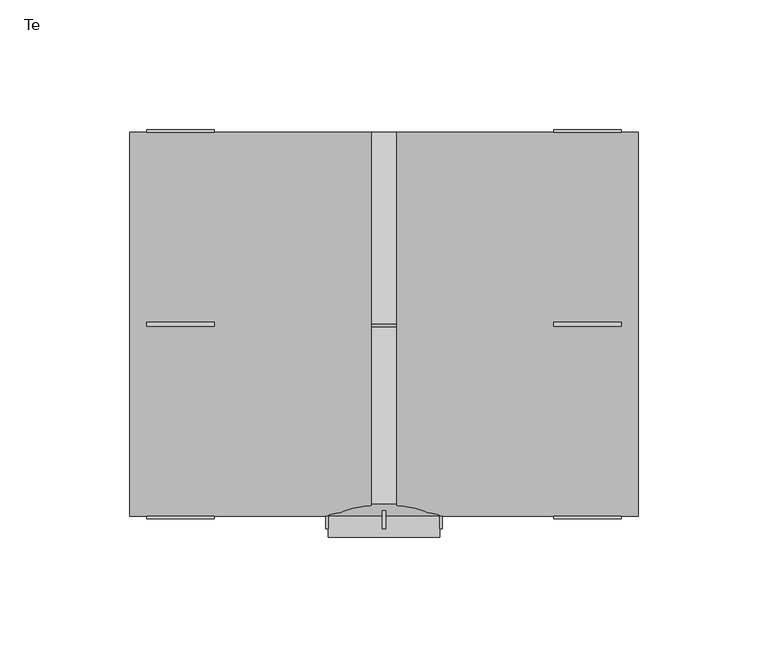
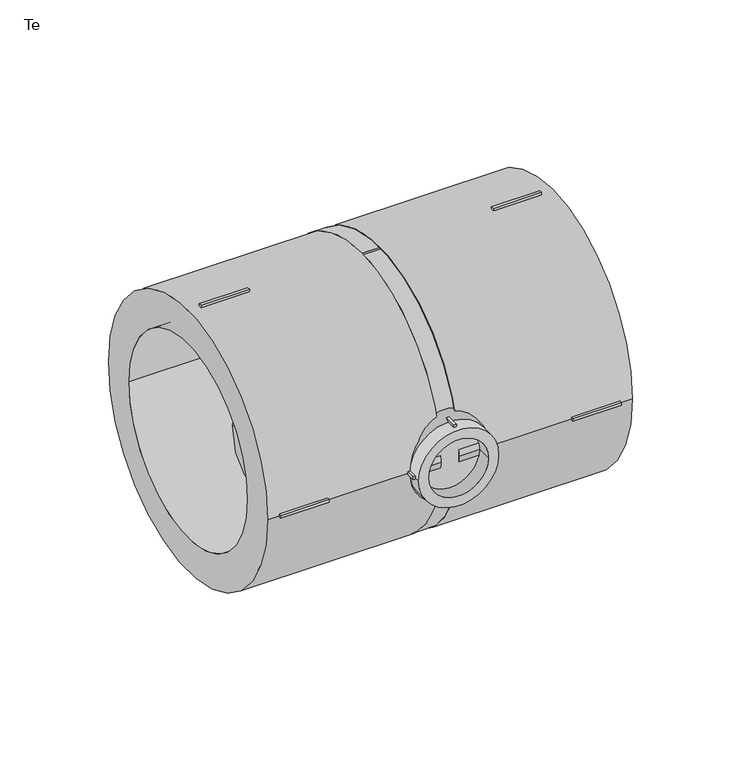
"""IFC4 building model written with IfcOpenShell, lengths in millimetres: pipe fitting geometry, EGB_VASEN_ PPR_Te WXR300_Te reducida WXR310 : Te."""

from ifc_helpers import new_model, si_unit, point, frame, origin, origin_2d, place, context, project, spatial, polyline, circle_curve, trimmed, segment, composite_curve, outline, extrude, source, transform, mapped, element, save
from ifc_brep_helpers import plane_surface, revolved_surface, advanced_brep


def te_11e1364c(model_context):
    return source(origin(), model_context, "Body", "SolidModel", [
        extrude(outline(polyline([(-0.75, -65.5), (0.75, -65.5), (0.75, -78.7), (-0.75, -78.7), (-0.75, -65.5)])), frame((0.0, 0.0, 20.5), z_axis=(0.0, 0.0, 1.0), x_axis=(1.0, 0.0, 0.0)), (0.0, 0.0, 1.0), 2.0),
        extrude(outline(polyline([(-0.75, -65.5), (0.75, -65.5), (0.75, -78.7), (-0.75, -78.7), (-0.75, -65.5)])), frame((0.0, 0.0, -22.5), z_axis=(0.0, 0.0, 1.0), x_axis=(1.0, 0.0, 0.0)), (0.0, 0.0, 1.0), 2.0),
        extrude(outline(polyline([(20.5, -65.5), (22.5, -65.5), (22.5, -78.7), (20.5, -78.7), (20.5, -65.5)])), frame((0.0, 0.0, -0.75), z_axis=(0.0, 0.0, 1.0), x_axis=(1.0, 0.0, 0.0)), (0.0, 0.0, 1.0), 1.5),
        extrude(outline(polyline([(-22.5, -65.5), (-20.5, -65.5), (-20.5, -78.7), (-22.5, -78.7), (-22.5, -65.5)])), frame((0.0, 0.0, -0.75), z_axis=(0.0, 0.0, 1.0), x_axis=(1.0, 0.0, 0.0)), (0.0, 0.0, 1.0), 1.5),
        extrude(outline(polyline([(65.5, -0.75), (65.5, 0.75), (91.5, 0.75), (91.5, -0.75), (65.5, -0.75)])), frame((0.0, 0.0, 73.0), z_axis=(0.0, 0.0, 1.0), x_axis=(1.0, 0.0, 0.0)), (0.0, 0.0, 1.0), 2.0),
        extrude(outline(polyline([(65.5, -0.75), (65.5, 0.75), (91.5, 0.75), (91.5, -0.75), (65.5, -0.75)])), frame((0.0, 0.0, -75.0), z_axis=(0.0, 0.0, 1.0), x_axis=(1.0, 0.0, 0.0)), (0.0, 0.0, 1.0), 2.0),
        extrude(outline(polyline([(65.5, 73.0), (65.5, 75.0), (91.5, 75.0), (91.5, 73.0), (65.5, 73.0)])), frame((0.0, 0.0, -0.75), z_axis=(0.0, 0.0, 1.0), x_axis=(1.0, 0.0, 0.0)), (0.0, 0.0, 1.0), 1.5),
        extrude(outline(polyline([(65.5, -75.0), (65.5, -73.0), (91.5, -73.0), (91.5, -75.0), (65.5, -75.0)])), frame((0.0, 0.0, -0.75), z_axis=(0.0, 0.0, 1.0), x_axis=(1.0, 0.0, 0.0)), (0.0, 0.0, 1.0), 1.5),
        extrude(outline(polyline([(-65.5, 0.75), (-65.5, -0.75), (-91.5, -0.75), (-91.5, 0.75), (-65.5, 0.75)])), frame((0.0, 0.0, 73.0), z_axis=(0.0, 0.0, 1.0), x_axis=(1.0, 0.0, 0.0)), (0.0, 0.0, 1.0), 2.0),
        extrude(outline(polyline([(-65.5, 0.75), (-65.5, -0.75), (-91.5, -0.75), (-91.5, 0.75), (-65.5, 0.75)])), frame((0.0, 0.0, -75.0), z_axis=(0.0, 0.0, 1.0), x_axis=(1.0, 0.0, 0.0)), (0.0, 0.0, 1.0), 2.0),
        extrude(outline(polyline([(-65.5, 75.0), (-65.5, 73.0), (-91.5, 73.0), (-91.5, 75.0), (-65.5, 75.0)])), frame((0.0, 0.0, -0.75), z_axis=(0.0, 0.0, 1.0), x_axis=(1.0, 0.0, 0.0)), (0.0, 0.0, 1.0), 1.5),
        extrude(outline(polyline([(-65.5, -73.0), (-65.5, -75.0), (-91.5, -75.0), (-91.5, -73.0), (-65.5, -73.0)])), frame((0.0, 0.0, -0.75), z_axis=(0.0, 0.0, 1.0), x_axis=(1.0, 0.0, 0.0)), (0.0, 0.0, 1.0), 1.5),
        extrude(outline(composite_curve([segment(trimmed(circle_curve(origin_2d(), 21.5), [point((0.0, 21.5))], [point((0.0, -21.5))], False, "CARTESIAN"), True, "CONTINUOUS"), segment(trimmed(circle_curve(origin_2d(), 21.5), [point((0.0, -21.5))], [point((0.0, 21.5))], False, "CARTESIAN"), True, "CONTINUOUS")], self_intersect=False), holes=[composite_curve([segment(trimmed(circle_curve(origin_2d(), 16.0), [point((0.0, 16.0))], [point((0.0, -16.0))], True, "CARTESIAN"), True, "CONTINUOUS"), segment(trimmed(circle_curve(origin_2d(), 16.0), [point((0.0, -16.0))], [point((0.0, 16.0))], True, "CARTESIAN"), True, "CONTINUOUS")], self_intersect=False)]), frame((0.0, -82.0, 0.0), z_axis=(0.0, 1.0, 0.0), x_axis=(0.0, 0.0, 1.0)), (0.0, 0.0, 1.0), 8.0),
        extrude(outline(composite_curve([segment(trimmed(circle_curve(origin_2d(), 74.0), [point((-74.0, 0.0))], [point((74.0, 0.0))], False, "CARTESIAN"), True, "CONTINUOUS"), segment(trimmed(circle_curve(origin_2d(), 74.0), [point((74.0, 0.0))], [point((-74.0, 0.0))], False, "CARTESIAN"), True, "CONTINUOUS")], self_intersect=False), holes=[composite_curve([segment(trimmed(circle_curve(origin_2d(), 55.0), [point((-55.0, 0.0))], [point((55.0, 0.0))], True, "CARTESIAN"), True, "CONTINUOUS"), segment(trimmed(circle_curve(origin_2d(), 55.0), [point((55.0, 0.0))], [point((-55.0, 0.0))], True, "CARTESIAN"), True, "CONTINUOUS")], self_intersect=False)]), frame((4.84, 0.0, 0.0), z_axis=(1.0, 0.0, 0.0), x_axis=(0.0, 1.0, 0.0)), (0.0, 0.0, 1.0), 93.16),
        extrude(outline(composite_curve([segment(trimmed(circle_curve(origin_2d(), 74.0), [point((-74.0, 0.0))], [point((74.0, 0.0))], False, "CARTESIAN"), True, "CONTINUOUS"), segment(trimmed(circle_curve(origin_2d(), 74.0), [point((74.0, 0.0))], [point((-74.0, 0.0))], False, "CARTESIAN"), True, "CONTINUOUS")], self_intersect=False), holes=[composite_curve([segment(trimmed(circle_curve(origin_2d(), 55.0), [point((-55.0, 0.0))], [point((55.0, 0.0))], True, "CARTESIAN"), True, "CONTINUOUS"), segment(trimmed(circle_curve(origin_2d(), 55.0), [point((55.0, 0.0))], [point((-55.0, 0.0))], True, "CARTESIAN"), True, "CONTINUOUS")], self_intersect=False)]), frame((-98.0, 0.0, 0.0), z_axis=(1.0, 0.0, 0.0), x_axis=(0.0, 1.0, 0.0)), (0.0, 0.0, 1.0), 93.16),
        advanced_brep(
        [(74.0, 0.0, 0.0), (-74.0, 0.0, 0.0), (21.5, -74.0, 0.0), (-21.5, -74.0, 0.0)],
        [
            (0, 1, circle_curve(frame((0.0, 0.0, 0.0), z_axis=(0.0, 1.0, 0.0), x_axis=(1.0, 0.0, 0.0)), 74.0)),
            (1, 0, circle_curve(frame((0.0, 0.0, 0.0), z_axis=(0.0, 1.0, 0.0), x_axis=(-1.0, 0.0, 0.0)), 74.0)),
            (2, 3, circle_curve(frame((0.0, -74.0, 0.0), z_axis=(0.0, -1.0, 0.0), x_axis=(-1.0, 0.0, 0.0)), 21.5)),
            (3, 2, circle_curve(frame((0.0, -74.0, 0.0), z_axis=(0.0, -1.0, 0.0), x_axis=(1.0, 0.0, 0.0)), 21.5)),
            (3, 1),
            (0, 2),
        ],
        [
            plane_surface(frame((0.0, 0.0, 0.0), z_axis=(0.0, 1.0, 0.0), x_axis=(0.0, 0.0, -1.0))),
            plane_surface(frame((0.0, -74.0, 0.0), z_axis=(0.0, -1.0, 0.0), x_axis=(0.0, 0.0, -1.0))),
            revolved_surface(polyline([(-21.49999999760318, -74.0, 0.0), (-74.0, 0.0, 0.0)]), (0.0, -104.3047619, 0.0), (0.0, 1.0, 0.0)),
            revolved_surface(polyline([(21.49999999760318, -74.0, 0.0), (74.0, 0.0, 0.0)]), (0.0, -104.3047619, 0.0), (0.0, 1.0, 0.0)),
        ],
        [
            (0, [[1, 2]]),
            (1, [[3, 4]]),
            (2, [[-4, 5, -1, 6]]),
            (3, [[-3, -6, -2, -5]]),
        ],
    ),
        extrude(outline(composite_curve([segment(trimmed(circle_curve(origin_2d(), 74.0), [point((-74.0, 0.0))], [point((74.0, 0.0))], False, "CARTESIAN"), True, "CONTINUOUS"), segment(trimmed(circle_curve(origin_2d(), 74.0), [point((74.0, 0.0))], [point((-74.0, 0.0))], False, "CARTESIAN"), True, "CONTINUOUS")], self_intersect=False)), frame((-4.84, 0.0, 0.0), z_axis=(1.0, 0.0, 0.0), x_axis=(0.0, 1.0, 0.0)), (0.0, 0.0, 1.0), 9.68),
    ])


if __name__ == "__main__":
    model = new_model("IFC4")
    model_context = context("Model", 3, world=origin())
    ifc_project = project(units=[si_unit("LENGTHUNIT", "METRE", prefix="MILLI")], contexts=[model_context])
    site = spatial("IfcSite", under=ifc_project)
    building = spatial("IfcBuilding", under=site)
    placement = place(None, origin())
    te_shape = te_11e1364c(model_context)
    element("IfcPipeFitting", 1, ObjectType="EGB_VASEN_ PPR_Te WXR300_Te reducida WXR310 : Te", at=placement, inside=building, context=model_context, shape_type="MappedRepresentation", body=[
        mapped(te_shape, transform((0.0, 0.0, 0.0), x_axis=(1.0, 0.0, 0.0), y_axis=(0.0, 1.0, 0.0), z_axis=(0.0, 0.0, 1.0))),
    ])
    save(model, "model.ifc")
